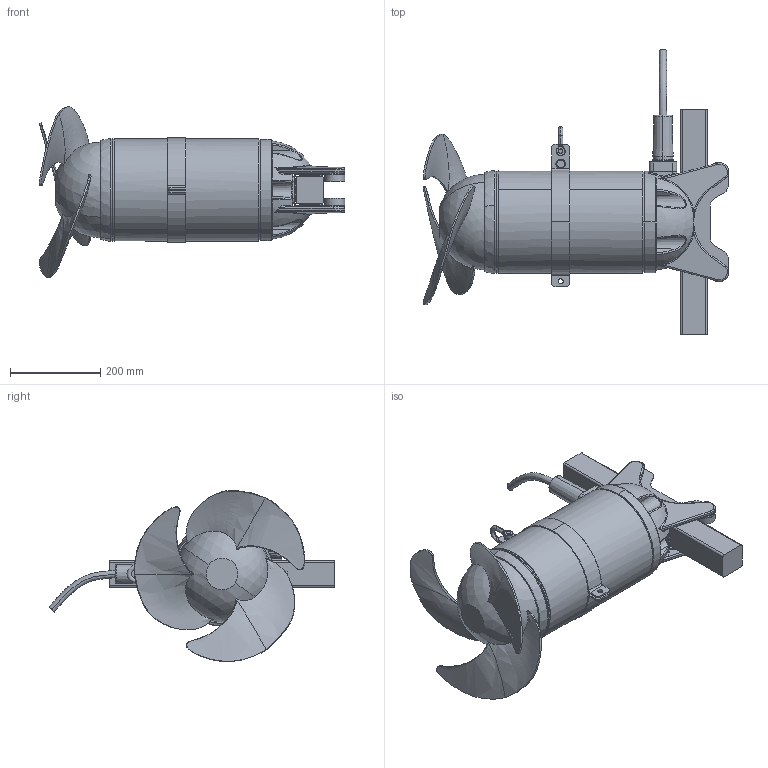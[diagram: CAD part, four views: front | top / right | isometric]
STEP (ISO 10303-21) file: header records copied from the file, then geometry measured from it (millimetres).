
FILE_DESCRIPTION (( 'STEP AP214' ), '1' );
FILE_NAME ('RW400 Vkt.60 standard_MSD.STEP', '2017-03-31T08:10:35', ( '' ), ( '' ), 'SwSTEP 2.0', 'SolidWorks 2017', '' );
FILE_SCHEMA (( 'AUTOMOTIVE_DESIGN' ));
Length unit declared in the file: millimetre
Products named in the file (1): RW400 Vkt.60 standard_MSD
Bounding box: 676.22 x 633.26 x 379.14 mm (x, y, z)
Volume: 22319842.3 mm3; surface area: 989431.3 mm2
Topology: 3 solids, 10 shells, 821 faces, 2042 edges, 1253 vertices
Faces by surface type: plane 277, cylinder 184, bspline 138, torus 130, sphere 48, cone 44
Entity records: 130997 total; most frequent: CARTESIAN_POINT 103430, ORIENTED_EDGE 3984, DIRECTION 3734, EDGE_CURVE 1992, AXIS2_PLACEMENT_3D 1489, VERTEX_POINT 1235, EDGE_LOOP 887, UNCERTAINTY_MEASURE_WITH_UNIT 826
